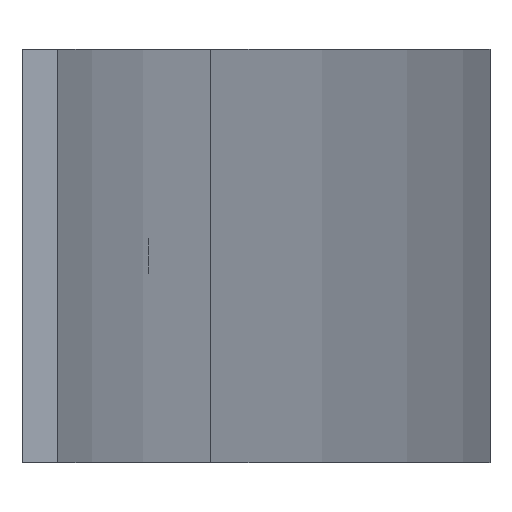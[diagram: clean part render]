
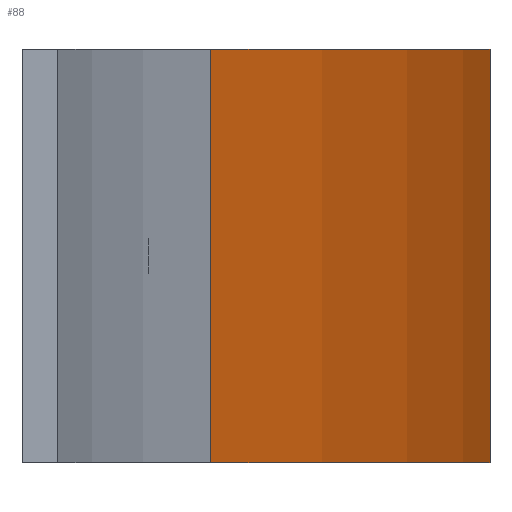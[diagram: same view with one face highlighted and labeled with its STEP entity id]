
A CAD part, left-side view. The second image highlights one B-rep face of the part: STEP entity #88.
In plain terms, the highlighted cylindrical face has radius 146.732 mm (diameter 293.464 mm), a partial arc.
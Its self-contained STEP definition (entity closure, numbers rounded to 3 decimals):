
#88 = ADVANCED_FACE( '', ( #124 ), #125, .T. );
#124 = FACE_OUTER_BOUND( '', #166, .T. );
#125 = CYLINDRICAL_SURFACE( '', #167, 146.732 );
#166 = EDGE_LOOP( '', ( #279, #280, #281, #282 ) );
#167 = AXIS2_PLACEMENT_3D( '', #283, #284, #285 );
#279 = ORIENTED_EDGE( '', *, *, #374, .T. );
#280 = ORIENTED_EDGE( '', *, *, #375, .F. );
#281 = ORIENTED_EDGE( '', *, *, #364, .F. );
#282 = ORIENTED_EDGE( '', *, *, #376, .T. );
#283 = CARTESIAN_POINT( '', ( 70.605, 120.583, 11.5 ) );
#284 = DIRECTION( '', ( 0., 0., 1. ) );
#285 = DIRECTION( '', ( -0.45, -0.893, 0. ) );
#364 = EDGE_CURVE( '', #432, #434, #435, .T. );
#374 = EDGE_CURVE( '', #450, #451, #452, .T. );
#375 = EDGE_CURVE( '', #434, #451, #453, .T. );
#376 = EDGE_CURVE( '', #432, #450, #454, .T. );
#432 = VERTEX_POINT( '', #529 );
#434 = VERTEX_POINT( '', #531 );
#435 = CIRCLE( '', #532, 146.732 );
#450 = VERTEX_POINT( '', #553 );
#451 = VERTEX_POINT( '', #554 );
#452 = CIRCLE( '', #555, 146.732 );
#453 = LINE( '', #556, #557 );
#454 = LINE( '', #558, #559 );
#529 = CARTESIAN_POINT( '', ( 4.642, -10.486, 11.5 ) );
#531 = CARTESIAN_POINT( '', ( 64., -26., 11.5 ) );
#532 = AXIS2_PLACEMENT_3D( '', #622, #623, #624 );
#553 = CARTESIAN_POINT( '', ( 4.642, -10.486, -11.5 ) );
#554 = CARTESIAN_POINT( '', ( 64., -26., -11.5 ) );
#555 = AXIS2_PLACEMENT_3D( '', #640, #641, #642 );
#556 = CARTESIAN_POINT( '', ( 64., -26., 11.5 ) );
#557 = VECTOR( '', #643, 1. );
#558 = CARTESIAN_POINT( '', ( 4.642, -10.486, 11.5 ) );
#559 = VECTOR( '', #644, 1. );
#622 = CARTESIAN_POINT( '', ( 70.605, 120.583, 11.5 ) );
#623 = DIRECTION( '', ( 0., 0., 1. ) );
#624 = DIRECTION( '', ( -0.45, -0.893, 0. ) );
#640 = CARTESIAN_POINT( '', ( 70.605, 120.583, -11.5 ) );
#641 = DIRECTION( '', ( 0., 0., 1. ) );
#642 = DIRECTION( '', ( -0.45, -0.893, 0. ) );
#643 = DIRECTION( '', ( 0., 0., -1. ) );
#644 = DIRECTION( '', ( 0., 0., -1. ) );
